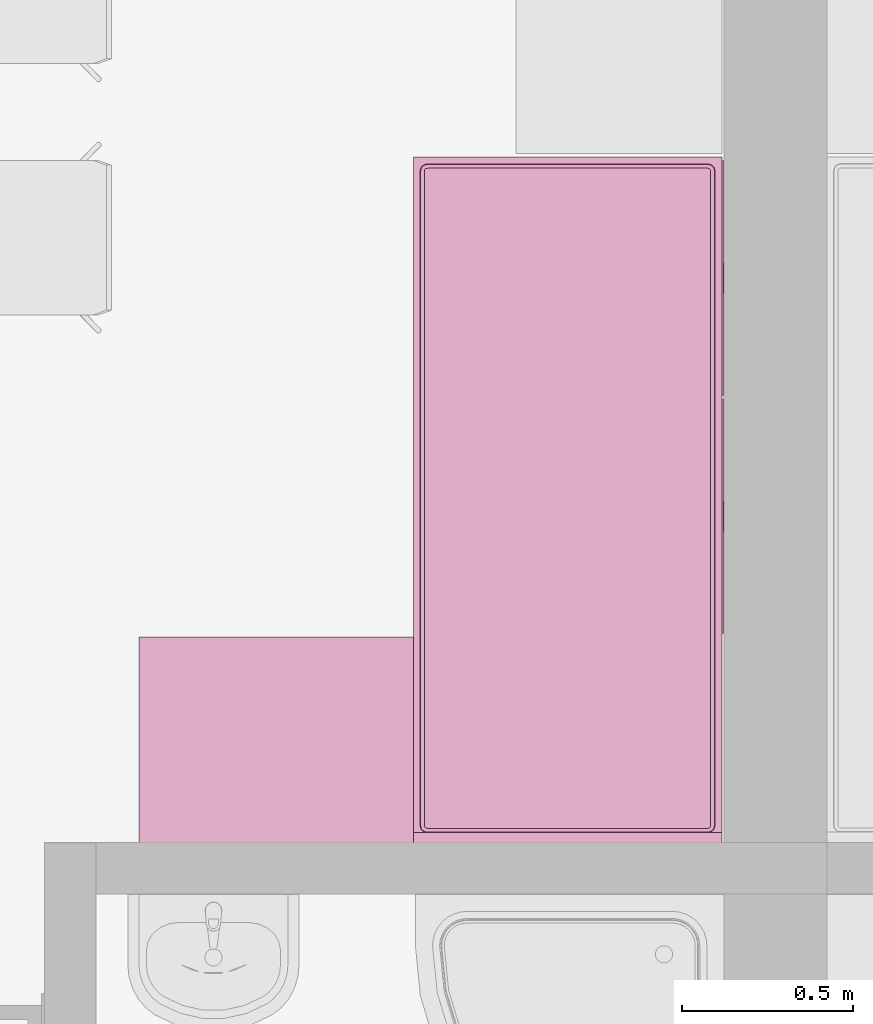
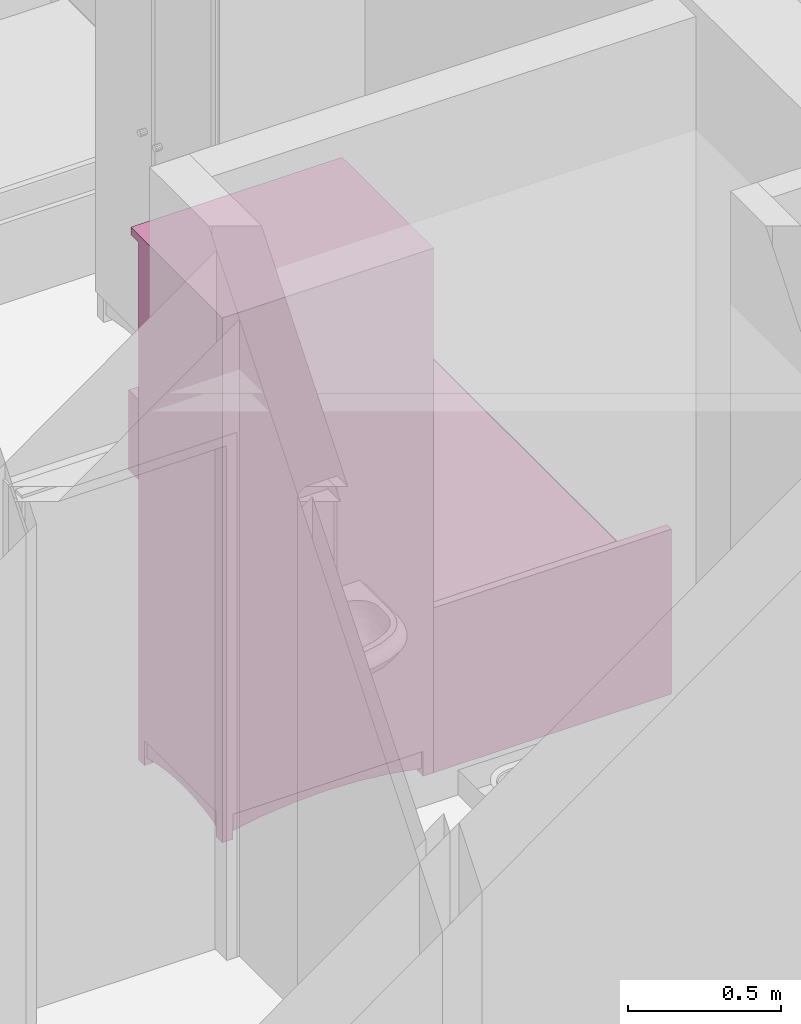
# One storey, part 89 of 165: 2 furnishings.
"""IFC2X3 building model written with IfcOpenShell, lengths in millimetres."""

import ifcopenshell
import ifcopenshell.guid

model = None  # the IFC model being written
_history = None  # IfcOwnerHistory: only IFC2X3 demands one
_inside = {}  # id of a spatial element -> (the spatial element, [elements in it])
_under = {}  # id of a project, library or spatial element -> (it, [spatial elements below it])
_declared = {}  # id of a project -> (the project, [libraries it declares])
_typed = {}  # id of a type object -> (the type object, [elements of that type])
_made_of = {}  # id of a material, layer set ... -> (it, [elements and type objects made of it])


def new_model(schema):
    """Start an empty IFC model of exactly this schema.

    Asked for "IFC4X3", IfcOpenShell would pick the latest addendum, in which some entities
    have other attributes; the version numbers below select the first issue.
    IFC2X3 requires an IfcOwnerHistory on every rooted entity: one is made here for all.
    """
    global model, _history
    if schema == "IFC4X3":
        model = ifcopenshell.file(schema_version=(4, 3, 0, 0))
    else:
        model = ifcopenshell.file(schema=schema)
    _inside.clear()
    _under.clear()
    _declared.clear()
    _typed.clear()
    _made_of.clear()
    _history = None
    if model.schema == "IFC2X3":
        org = make("IfcOrganization", Name="unknown")
        user = make(
            "IfcPersonAndOrganization",
            ThePerson=make("IfcPerson", FamilyName="unknown"),
            TheOrganization=org,
        )
        app = make(
            "IfcApplication",
            ApplicationDeveloper=org,
            Version="unknown",
            ApplicationFullName="unknown",
            ApplicationIdentifier="unknown",
        )
        _history = make(
            "IfcOwnerHistory",
            OwningUser=user,
            OwningApplication=app,
            ChangeAction="ADDED",
            CreationDate=0,
        )
    return model


def make(cls, **values):
    """One entity of the class cls with the attributes given. An attribute that is None is left unset."""
    return model.create_entity(
        cls, **{name: value for name, value in values.items() if value is not None}
    )


def entity(cls, *values):
    """Any entity or typed value of the class cls, its attributes in the order of the schema. None: left unset."""
    e = model.create_entity(cls)
    for i, value in enumerate(values):
        if value is not None:
            e[i] = value
    return e


def rooted(cls, **values):
    """An entity with a GlobalId (a new one), such as an element, a storey or a relation."""
    return make(cls, GlobalId=ifcopenshell.guid.new(), OwnerHistory=_history, **values)


def si_unit(unit_type, name, prefix=None):
    """IfcSIUnit, for example si_unit("LENGTHUNIT", "METRE", prefix="MILLI")."""
    return make("IfcSIUnit", UnitType=unit_type, Prefix=prefix, Name=name)


def converted_unit(unit_type, name, factor, base, dimensions=None, offset=None):
    """IfcConversionBasedUnit, such as the inch: factor (a typed value) times the base unit."""
    return make(
        "IfcConversionBasedUnit"
        if offset is None
        else "IfcConversionBasedUnitWithOffset",
        ConversionOffset=offset,
        Dimensions=None
        if dimensions is None
        else entity("IfcDimensionalExponents", *dimensions),
        UnitType=unit_type,
        Name=name,
        ConversionFactor=make(
            "IfcMeasureWithUnit", ValueComponent=factor, UnitComponent=base
        ),
    )


def money_unit(currency):
    """IfcMonetaryUnit."""
    return make("IfcMonetaryUnit", Currency=currency)


def assignment(units):
    """IfcUnitAssignment: the units of a project."""
    return None if units is None else make("IfcUnitAssignment", Units=units)


def point(xyz):
    """IfcCartesianPoint."""
    return None if xyz is None else make("IfcCartesianPoint", Coordinates=xyz)


def direction(xyz):
    """IfcDirection."""
    return None if xyz is None else make("IfcDirection", DirectionRatios=xyz)


def frame(location, z_axis=None, x_axis=None):
    """IfcAxis2Placement3D, a coordinate frame: its origin and axes. An axis left out is left unset."""
    return make(
        "IfcAxis2Placement3D",
        Location=point(location),
        Axis=direction(z_axis),
        RefDirection=direction(x_axis),
    )


def origin_with_axes():
    """The frame at (0, 0, 0) with the z axis (0, 0, 1) and the x axis (1, 0, 0) written out."""
    return frame((0.0, 0.0, 0.0), z_axis=(0.0, 0.0, 1.0), x_axis=(1.0, 0.0, 0.0))


def place(relative_to, where):
    """IfcLocalPlacement: puts the frame where relative to a parent placement (None: the world)."""
    return make(
        "IfcLocalPlacement", PlacementRelTo=relative_to, RelativePlacement=where
    )


def context(
    kind, dimensions, precision=None, world=None, true_north=None, identifier=None
):
    """IfcGeometricRepresentationContext, for example the 3D "Model" context."""
    return make(
        "IfcGeometricRepresentationContext",
        ContextIdentifier=identifier,
        ContextType=kind,
        CoordinateSpaceDimension=dimensions,
        Precision=precision,
        WorldCoordinateSystem=world,
        TrueNorth=true_north,
    )


def subcontext(parent, identifier, kind, view, scale=None):
    """IfcGeometricRepresentationSubContext, for example "Body" below "Model"."""
    return make(
        "IfcGeometricRepresentationSubContext",
        ContextIdentifier=identifier,
        ContextType=kind,
        ParentContext=parent,
        TargetScale=scale,
        TargetView=view,
    )


def project(units=None, contexts=None):
    """IfcProject with its units and contexts."""
    return rooted(
        "IfcProject",
        Name="project",
        RepresentationContexts=contexts,
        UnitsInContext=assignment(units),
    )


def spatial(cls, under=None, at=None, **own):
    """A site, building, storey or space (cls), placed at a placement, below another one or the project."""
    s = rooted(cls, ObjectPlacement=at, **own)
    if under is not None:
        _under.setdefault(under.id(), (under, []))[1].append(s)
    return s


def faces_of(points, faces, orient=None, outer=None):
    """IfcFace entities. A face is a list of loops; a loop is a list of indices into points, from 0.

    orient and outer hold one flag for each loop. By default every Orientation is true, the
    first loop of a face is its IfcFaceOuterBound and the others are IfcFaceBound.
    """
    made = []
    for i, loops in enumerate(faces):
        bounds = []
        for j, loop in enumerate(loops):
            is_outer = j == 0 if outer is None else outer[i][j]
            bounds.append(
                make(
                    "IfcFaceOuterBound" if is_outer else "IfcFaceBound",
                    Bound=make("IfcPolyLoop", Polygon=[points[k] for k in loop]),
                    Orientation=True if orient is None else orient[i][j],
                )
            )
        made.append(make("IfcFace", Bounds=bounds))
    return made


def faceted_brep(points, faces, orient=None, outer=None, voids=None):
    """IfcFacetedBrep: a solid bounded by flat faces; with voids (closed shells), ...WithVoids."""
    shared = [point(p) for p in points]
    hull = make("IfcClosedShell", CfsFaces=faces_of(shared, faces, orient, outer))
    if voids is None:
        return make("IfcFacetedBrep", Outer=hull)
    return make(
        "IfcFacetedBrepWithVoids",
        Outer=hull,
        Voids=[
            make(cls, CfsFaces=faces_of(shared, fs, o, b)) for cls, fs, o, b in voids
        ],
    )


def shape(context_of_items, identifier, shape_type, items):
    """IfcShapeRepresentation: the items that make up one representation, for example the "Body"."""
    return make(
        "IfcShapeRepresentation",
        ContextOfItems=context_of_items,
        RepresentationIdentifier=identifier,
        RepresentationType=shape_type,
        Items=items,
    )


def source(mapping_origin, context_of_items, identifier, shape_type, items):
    """IfcRepresentationMap: a shape defined once, which mapped items show again and again."""
    return make(
        "IfcRepresentationMap",
        MappingOrigin=mapping_origin,
        MappedRepresentation=shape(context_of_items, identifier, shape_type, items),
    )


def transform(
    local_origin,
    x_axis=None,
    y_axis=None,
    z_axis=None,
    scale=None,
    scale2=None,
    scale3=None,
    uniform=True,
):
    """IfcCartesianTransformationOperator3D, or its non-uniform kind. x_axis, y_axis, z_axis: its Axis1, 2, 3."""
    if uniform:
        return make(
            "IfcCartesianTransformationOperator3D",
            Axis1=direction(x_axis),
            Axis2=direction(y_axis),
            LocalOrigin=point(local_origin),
            Scale=scale,
            Axis3=direction(z_axis),
        )
    return make(
        "IfcCartesianTransformationOperator3DnonUniform",
        Axis1=direction(x_axis),
        Axis2=direction(y_axis),
        LocalOrigin=point(local_origin),
        Scale=scale,
        Axis3=direction(z_axis),
        Scale2=scale2,
        Scale3=scale3,
    )


def mapped(mapping_source, mapping_target):
    """IfcMappedItem: shows the shape of a source again, moved by a transform."""
    return make(
        "IfcMappedItem", MappingSource=mapping_source, MappingTarget=mapping_target
    )


def material(Name=None, Category=None):
    """IfcMaterial."""
    return make("IfcMaterial", Name=Name, Category=Category)


def material_list(materials):
    """IfcMaterialList."""
    return make("IfcMaterialList", Materials=materials)


def made_of(thing, what):
    """Note that an element or type object is made of a material, layer set ...; save() writes the relation."""
    if what is not None:
        _made_of.setdefault(what.id(), (what, []))[1].append(thing)
    return thing


def type_object(cls, material=None, **own):
    """A type object (cls), such as IfcWallType, which elements share."""
    return made_of(rooted(cls, **own), material)


def element(
    cls,
    number,
    at=None,
    inside=None,
    cuts=None,
    type_object=None,
    material=None,
    context=None,
    identifier="Body",
    shape_type=None,
    held_by="IfcProductDefinitionShape",
    body=None,
    shapes=None,
    **own,
):
    """One element of the class cls, such as IfcWall. Its Tag is "e" and its number.

    at: its placement. inside: the storey or other place that contains it. cuts: it is an
    opening in that element (IfcRelVoidsElement). A single representation is given by context,
    identifier, shape_type and body (its items); several are given by shapes. held_by: the class
    of the entity that holds the representations. save() writes the other relations.
    """
    e = rooted(cls, Tag="e%d" % number, ObjectPlacement=at, **own)
    if body is not None:
        shapes = [shape(context, identifier, shape_type, body)]
    if shapes is not None:
        e.Representation = make(held_by, Representations=shapes)
    if inside is not None:
        _inside.setdefault(inside.id(), (inside, []))[1].append(e)
    if cuts is not None:
        rooted(
            "IfcRelVoidsElement", RelatingBuildingElement=cuts, RelatedOpeningElement=e
        )
    if type_object is not None:
        _typed.setdefault(type_object.id(), (type_object, []))[1].append(e)
    return made_of(e, material)


def aggregate(whole, parts):
    """IfcRelAggregates: a whole, such as a stair, and the parts it consists of."""
    return rooted("IfcRelAggregates", RelatingObject=whole, RelatedObjects=parts)


def save(model, path):
    """Write the relations noted so far, then the file.

    IfcRelAggregates (storeys below a building ...), IfcRelContainedInSpatialStructure (elements
    in a storey), IfcRelDefinesByType, IfcRelAssociatesMaterial and IfcRelDeclares: one each for
    every whole, place, type object, material and project.
    """
    for whole, parts in _under.values():
        aggregate(whole, parts)
    for where, things in _inside.values():
        rooted(
            "IfcRelContainedInSpatialStructure",
            RelatedElements=things,
            RelatingStructure=where,
        )
    for kind, things in _typed.values():
        rooted("IfcRelDefinesByType", RelatedObjects=things, RelatingType=kind)
    for what, things in _made_of.values():
        rooted("IfcRelAssociatesMaterial", RelatedObjects=things, RelatingMaterial=what)
    for by, libraries in _declared.values():
        rooted("IfcRelDeclares", RelatingContext=by, RelatedDefinitions=libraries)
    model.write(path)


model = new_model("IFC2X3")

# Units and contexts
model_context = context("Model", 3, precision=1e-05, world=origin_with_axes(), true_north=direction((0.0, 1.0)))
body_context = subcontext(model_context, "Body", "Model", "MODEL_VIEW")
ifc_project = project(units=[si_unit("LENGTHUNIT", "METRE", prefix="MILLI"), si_unit("AREAUNIT", "SQUARE_METRE"), si_unit("VOLUMEUNIT", "CUBIC_METRE"), converted_unit("PLANEANGLEUNIT", "DEGREE", entity("IfcPlaneAngleMeasure", 0.0174532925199), si_unit("PLANEANGLEUNIT", "RADIAN"), dimensions=[0, 0, 0, 0, 0, 0, 0]), si_unit("SOLIDANGLEUNIT", "STERADIAN"), money_unit("USD"), converted_unit("TIMEUNIT", "Year", entity("IfcTimeMeasure", 31556926.0), si_unit("TIMEUNIT", "SECOND"), dimensions=[0, 0, 0, 0, 0, 0, 0]), si_unit("MASSUNIT", "GRAM"), si_unit("THERMODYNAMICTEMPERATUREUNIT", "DEGREE_CELSIUS"), si_unit("LUMINOUSINTENSITYUNIT", "LUMEN")], contexts=[model_context])

# Site, building, storey
site_placement = place(None, origin_with_axes())
site = spatial("IfcSite", under=ifc_project, at=site_placement, Name="Site", CompositionType="ELEMENT")
building_placement = place(site_placement, origin_with_axes())
building = spatial("IfcBuilding", under=site, at=building_placement, Name="Building", CompositionType="ELEMENT")
storey_placement = place(building_placement, frame((0.0, 0.0, 6300.0), z_axis=(0.0, 0.0, 1.0), x_axis=(1.0, 0.0, 0.0)))
storey = spatial("IfcBuildingStorey", under=building, at=storey_placement, Name="4KORRUS", CompositionType="ELEMENT", Elevation=6300.0)

# Furnishings
ifc_material = material(Name="Background")
ifc_material_list = material_list([ifc_material])
furnishing_element_type_1 = type_object("IfcFurnishingElementType", Name="Cupboard 19")
shared_shape_1 = source(origin_with_axes(), body_context, "Body", "Brep", [
    faceted_brep([(-780.0, 600.0, 120.0), (-780.0, 580.0, 120.0), (-780.0, 580.0, 2050.0), (-780.0, 600.0, 2050.0), (-20.0, 600.0, 120.0), (-20.0, 580.0, 120.0), (-20.0, 580.0, 2050.0), (-20.0, 600.0, 2050.0)], [[[0, 1, 2, 3]], [[0, 4, 5, 1]], [[1, 5, 6, 2]], [[3, 2, 6, 7]], [[4, 0, 3, 7]], [[5, 4, 7, 6]]]),
    faceted_brep([(0.0, 50.0, 100.0), (-20.0, 50.0, 100.0), (-20.0, 600.0, 100.0), (0.0, 600.0, 100.0), (0.0, 50.0, 2070.0), (-20.0, 50.0, 2070.0), (-20.0, 600.0, 2070.0), (0.0, 600.0, 2070.0)], [[[0, 1, 2, 3]], [[1, 0, 4, 5]], [[2, 1, 5, 6]], [[3, 2, 6, 7]], [[0, 3, 7, 4]], [[5, 4, 7, 6]]]),
    faceted_brep([(-780.0, 50.0, 100.0), (-800.0, 50.0, 100.0), (-800.0, 600.0, 100.0), (-780.0, 600.0, 100.0), (-780.0, 50.0, 2070.0), (-800.0, 50.0, 2070.0), (-800.0, 600.0, 2070.0), (-780.0, 600.0, 2070.0)], [[[0, 1, 2, 3]], [[1, 0, 4, 5]], [[2, 1, 5, 6]], [[3, 2, 6, 7]], [[0, 3, 7, 4]], [[5, 4, 7, 6]]]),
    faceted_brep([(-20.0, 50.0, 100.0), (-780.0, 50.0, 100.0), (-780.0, 600.0, 100.0), (-20.0, 600.0, 100.0), (-20.0, 50.0, 120.0), (-780.0, 50.0, 120.0), (-780.0, 600.0, 120.0), (-20.0, 600.0, 120.0)], [[[0, 1, 2, 3]], [[1, 0, 4, 5]], [[2, 1, 5, 6]], [[3, 2, 6, 7]], [[0, 3, 7, 4]], [[5, 4, 7, 6]]]),
    faceted_brep([(-20.0, 50.0, 2050.0), (-780.0, 50.0, 2050.0), (-780.0, 600.0, 2050.0), (-20.0, 600.0, 2050.0), (-20.0, 50.0, 2070.0), (-780.0, 50.0, 2070.0), (-780.0, 600.0, 2070.0), (-20.0, 600.0, 2070.0)], [[[0, 1, 2, 3]], [[1, 0, 4, 5]], [[2, 1, 5, 6]], [[3, 2, 6, 7]], [[0, 3, 7, 4]], [[5, 4, 7, 6]]]),
    faceted_brep([(0.0, 600.0, 2070.0), (0.0, 600.0, 2100.0), (0.0, 0.0, 2100.0), (0.0, 0.0, 2070.0), (-800.0, 600.0, 2070.0), (-800.0, 600.0, 2100.0), (-800.0, 0.0, 2100.0), (-800.0, 0.0, 2070.0)], [[[0, 1, 2, 3]], [[4, 5, 1, 0]], [[1, 5, 6, 2]], [[3, 2, 6, 7]], [[0, 3, 7, 4]], [[7, 6, 5, 4]]]),
    faceted_brep([(-760.0, 590.0, 25.0), (-640.962, 590.0, 45.8), (-640.962, 570.0, 45.8), (-760.0, 570.0, 25.0), (-760.0, 590.0, 100.0), (-40.0, 590.0, 100.0), (-40.0, 590.0, 25.0), (-159.038, 590.0, 45.8), (-279.23, 590.0, 58.32), (-400.0, 590.0, 62.5), (-520.77, 590.0, 58.32), (-520.77, 570.0, 58.32), (-400.0, 570.0, 62.5), (-279.23, 570.0, 58.32), (-159.038, 570.0, 45.8), (-40.0, 570.0, 25.0), (-40.0, 570.0, 100.0), (-760.0, 570.0, 100.0)], [[[0, 1, 2, 3]], [[0, 4, 5, 6, 7, 8, 9, 10, 1]], [[1, 10, 11, 2]], [[3, 2, 11, 12, 13, 14, 15, 16, 17]], [[4, 0, 3, 17]], [[5, 4, 17, 16]], [[6, 5, 16, 15]], [[7, 6, 15, 14]], [[8, 7, 14, 13]], [[9, 8, 13, 12]], [[10, 9, 12, 11]]]),
    faceted_brep([(-760.0, 80.0, 25.0), (-640.962, 80.0, 45.8), (-640.962, 60.0, 45.8), (-760.0, 60.0, 25.0), (-760.0, 80.0, 100.0), (-40.0, 80.0, 100.0), (-40.0, 80.0, 25.0), (-159.038, 80.0, 45.8), (-279.23, 80.0, 58.32), (-400.0, 80.0, 62.5), (-520.77, 80.0, 58.32), (-520.77, 60.0, 58.32), (-400.0, 60.0, 62.5), (-279.23, 60.0, 58.32), (-159.038, 60.0, 45.8), (-40.0, 60.0, 25.0), (-40.0, 60.0, 100.0), (-760.0, 60.0, 100.0)], [[[0, 1, 2, 3]], [[0, 4, 5, 6, 7, 8, 9, 10, 1]], [[1, 10, 11, 2]], [[3, 2, 11, 12, 13, 14, 15, 16, 17]], [[4, 0, 3, 17]], [[5, 4, 17, 16]], [[6, 5, 16, 15]], [[7, 6, 15, 14]], [[8, 7, 14, 13]], [[9, 8, 13, 12]], [[10, 9, 12, 11]]]),
    faceted_brep([(-790.0, 90.0, 25.0), (-790.0, 141.266, 38.072), (-770.0, 141.266, 38.072), (-770.0, 90.0, 25.0), (-790.0, 90.0, 100.0), (-790.0, 560.0, 100.0), (-790.0, 560.0, 25.0), (-790.0, 508.734, 38.072), (-790.0, 456.752, 47.92), (-790.0, 404.257, 54.508), (-790.0, 351.453, 57.808), (-790.0, 298.547, 57.808), (-790.0, 245.743, 54.508), (-790.0, 193.248, 47.92), (-770.0, 193.248, 47.92), (-770.0, 245.743, 54.508), (-770.0, 298.547, 57.808), (-770.0, 351.453, 57.808), (-770.0, 404.257, 54.508), (-770.0, 456.752, 47.92), (-770.0, 508.734, 38.072), (-770.0, 560.0, 25.0), (-770.0, 560.0, 100.0), (-770.0, 90.0, 100.0)], [[[0, 1, 2, 3]], [[0, 4, 5, 6, 7, 8, 9, 10, 11, 12, 13, 1]], [[1, 13, 14, 2]], [[3, 2, 14, 15, 16, 17, 18, 19, 20, 21, 22, 23]], [[4, 0, 3, 23]], [[5, 4, 23, 22]], [[6, 5, 22, 21]], [[7, 6, 21, 20]], [[8, 7, 20, 19]], [[9, 8, 19, 18]], [[10, 9, 18, 17]], [[11, 10, 17, 16]], [[12, 11, 16, 15]], [[13, 12, 15, 14]]]),
    faceted_brep([(-30.0, 90.0, 25.0), (-30.0, 141.266, 38.072), (-10.0, 141.266, 38.072), (-10.0, 90.0, 25.0), (-30.0, 90.0, 100.0), (-30.0, 560.0, 100.0), (-30.0, 560.0, 25.0), (-30.0, 508.734, 38.072), (-30.0, 456.752, 47.92), (-30.0, 404.257, 54.508), (-30.0, 351.453, 57.808), (-30.0, 298.547, 57.808), (-30.0, 245.743, 54.508), (-30.0, 193.248, 47.92), (-10.0, 193.248, 47.92), (-10.0, 245.743, 54.508), (-10.0, 298.547, 57.808), (-10.0, 351.453, 57.808), (-10.0, 404.257, 54.508), (-10.0, 456.752, 47.92), (-10.0, 508.734, 38.072), (-10.0, 560.0, 25.0), (-10.0, 560.0, 100.0), (-10.0, 90.0, 100.0)], [[[0, 1, 2, 3]], [[0, 4, 5, 6, 7, 8, 9, 10, 11, 12, 13, 1]], [[1, 13, 14, 2]], [[3, 2, 14, 15, 16, 17, 18, 19, 20, 21, 22, 23]], [[4, 0, 3, 23]], [[5, 4, 23, 22]], [[6, 5, 22, 21]], [[7, 6, 21, 20]], [[8, 7, 20, 19]], [[9, 8, 19, 18]], [[10, 9, 18, 17]], [[11, 10, 17, 16]], [[12, 11, 16, 15]], [[13, 12, 15, 14]]]),
    faceted_brep([(-760.0, 560.0, 0.0), (-760.0, 600.0, 0.0), (-760.0, 600.0, 100.0), (-760.0, 560.0, 100.0), (-800.0, 560.0, 0.0), (-800.0, 600.0, 0.0), (-800.0, 600.0, 100.0), (-800.0, 560.0, 100.0)], [[[0, 1, 2, 3]], [[0, 4, 5, 1]], [[1, 5, 6, 2]], [[3, 2, 6, 7]], [[4, 0, 3, 7]], [[5, 4, 7, 6]]]),
    faceted_brep([(0.0, 560.0, 0.0), (0.0, 600.0, 0.0), (0.0, 600.0, 100.0), (0.0, 560.0, 100.0), (-40.0, 560.0, 0.0), (-40.0, 600.0, 0.0), (-40.0, 600.0, 100.0), (-40.0, 560.0, 100.0)], [[[0, 1, 2, 3]], [[0, 4, 5, 1]], [[1, 5, 6, 2]], [[3, 2, 6, 7]], [[4, 0, 3, 7]], [[5, 4, 7, 6]]]),
    faceted_brep([(-760.0, 50.0, 0.0), (-760.0, 90.0, 0.0), (-760.0, 90.0, 100.0), (-760.0, 50.0, 100.0), (-800.0, 50.0, 0.0), (-800.0, 90.0, 0.0), (-800.0, 90.0, 100.0), (-800.0, 50.0, 100.0)], [[[0, 1, 2, 3]], [[0, 4, 5, 1]], [[1, 5, 6, 2]], [[3, 2, 6, 7]], [[4, 0, 3, 7]], [[5, 4, 7, 6]]]),
    faceted_brep([(0.0, 50.0, 0.0), (0.0, 90.0, 0.0), (0.0, 90.0, 100.0), (0.0, 50.0, 100.0), (-40.0, 50.0, 0.0), (-40.0, 90.0, 0.0), (-40.0, 90.0, 100.0), (-40.0, 50.0, 100.0)], [[[0, 1, 2, 3]], [[0, 4, 5, 1]], [[1, 5, 6, 2]], [[3, 2, 6, 7]], [[4, 0, 3, 7]], [[5, 4, 7, 6]]]),
    faceted_brep([(-780.0, 580.0, 587.5), (-780.0, 50.0, 587.5), (-780.0, 50.0, 607.5), (-780.0, 580.0, 607.5), (-20.0, 580.0, 587.5), (-20.0, 50.0, 587.5), (-20.0, 50.0, 607.5), (-20.0, 580.0, 607.5)], [[[0, 1, 2, 3]], [[0, 4, 5, 1]], [[1, 5, 6, 2]], [[3, 2, 6, 7]], [[4, 0, 3, 7]], [[5, 4, 7, 6]]]),
    faceted_brep([(-780.0, 580.0, 1075.0), (-780.0, 50.0, 1075.0), (-780.0, 50.0, 1095.0), (-780.0, 580.0, 1095.0), (-20.0, 580.0, 1075.0), (-20.0, 50.0, 1075.0), (-20.0, 50.0, 1095.0), (-20.0, 580.0, 1095.0)], [[[0, 1, 2, 3]], [[0, 4, 5, 1]], [[1, 5, 6, 2]], [[3, 2, 6, 7]], [[4, 0, 3, 7]], [[5, 4, 7, 6]]]),
    faceted_brep([(-780.0, 580.0, 1562.5), (-780.0, 50.0, 1562.5), (-780.0, 50.0, 1582.5), (-780.0, 580.0, 1582.5), (-20.0, 580.0, 1562.5), (-20.0, 50.0, 1562.5), (-20.0, 50.0, 1582.5), (-20.0, 580.0, 1582.5)], [[[0, 1, 2, 3]], [[0, 4, 5, 1]], [[1, 5, 6, 2]], [[3, 2, 6, 7]], [[4, 0, 3, 7]], [[5, 4, 7, 6]]]),
    faceted_brep([(-789.5, 50.0, 110.5), (-789.5, 50.0, 2059.5), (-400.5, 50.0, 2059.5), (-400.5, 50.0, 110.5), (-789.5, 40.0, 110.5), (-789.5, 40.0, 2059.5), (-400.5, 40.0, 2059.5), (-400.5, 40.0, 110.5), (-779.5, 30.0, 120.5), (-779.5, 30.0, 2049.5), (-410.5, 30.0, 2049.5), (-410.5, 30.0, 120.5)], [[[0, 1, 2, 3]], [[1, 0, 4, 5]], [[2, 1, 5, 6]], [[3, 2, 6, 7]], [[0, 3, 7, 4]], [[5, 4, 8, 9]], [[6, 5, 9, 10]], [[7, 6, 10, 11]], [[4, 7, 11, 8]], [[10, 9, 8, 11]]]),
    faceted_brep([(-399.5, 50.0, 110.5), (-399.5, 50.0, 2059.5), (-10.5, 50.0, 2059.5), (-10.5, 50.0, 110.5), (-399.5, 40.0, 110.5), (-399.5, 40.0, 2059.5), (-10.5, 40.0, 2059.5), (-10.5, 40.0, 110.5), (-389.5, 30.0, 120.5), (-389.5, 30.0, 2049.5), (-20.5, 30.0, 2049.5), (-20.5, 30.0, 120.5)], [[[0, 1, 2, 3]], [[1, 0, 4, 5]], [[2, 1, 5, 6]], [[3, 2, 6, 7]], [[0, 3, 7, 4]], [[5, 4, 8, 9]], [[6, 5, 9, 10]], [[7, 6, 10, 11]], [[4, 7, 11, 8]], [[10, 9, 8, 11]]]),
    faceted_brep([(-339.608, 30.0, 954.0), (-344.0, 30.0, 949.608), (-350.0, 30.0, 948.0), (-356.0, 30.0, 949.608), (-360.392, 30.0, 954.0), (-362.0, 30.0, 960.0), (-360.392, 30.0, 966.0), (-356.0, 30.0, 970.392), (-350.0, 30.0, 972.0), (-344.0, 30.0, 970.392), (-339.608, 30.0, 966.0), (-338.0, 30.0, 960.0), (-339.608, 5.0, 954.0), (-344.0, 5.0, 949.608), (-350.0, 5.0, 948.0), (-356.0, 5.0, 949.608), (-360.392, 5.0, 954.0), (-362.0, 5.0, 960.0), (-360.392, 5.0, 966.0), (-356.0, 5.0, 970.392), (-350.0, 5.0, 972.0), (-344.0, 5.0, 970.392), (-339.608, 5.0, 966.0), (-338.0, 5.0, 960.0)], [[[0, 1, 2, 3, 4, 5, 6, 7, 8, 9, 10, 11]], [[1, 0, 12, 13]], [[2, 1, 13, 14]], [[3, 2, 14, 15]], [[4, 3, 15, 16]], [[5, 4, 16, 17]], [[6, 5, 17, 18]], [[7, 6, 18, 19]], [[8, 7, 19, 20]], [[9, 8, 20, 21]], [[10, 9, 21, 22]], [[11, 10, 22, 23]], [[0, 11, 23, 12]], [[12, 23, 22, 21, 20, 19, 18, 17, 16, 15, 14, 13]]]),
    faceted_brep([(-460.392, 30.0, 954.0), (-462.0, 30.0, 960.0), (-460.392, 30.0, 966.0), (-456.0, 30.0, 970.392), (-450.0, 30.0, 972.0), (-444.0, 30.0, 970.392), (-439.608, 30.0, 966.0), (-438.0, 30.0, 960.0), (-439.608, 30.0, 954.0), (-444.0, 30.0, 949.608), (-450.0, 30.0, 948.0), (-456.0, 30.0, 949.608), (-460.392, 5.0, 954.0), (-462.0, 5.0, 960.0), (-460.392, 5.0, 966.0), (-456.0, 5.0, 970.392), (-450.0, 5.0, 972.0), (-444.0, 5.0, 970.392), (-439.608, 5.0, 966.0), (-438.0, 5.0, 960.0), (-439.608, 5.0, 954.0), (-444.0, 5.0, 949.608), (-450.0, 5.0, 948.0), (-456.0, 5.0, 949.608)], [[[0, 1, 2, 3, 4, 5, 6, 7, 8, 9, 10, 11]], [[0, 12, 13, 1]], [[1, 13, 14, 2]], [[2, 14, 15, 3]], [[3, 15, 16, 4]], [[4, 16, 17, 5]], [[5, 17, 18, 6]], [[6, 18, 19, 7]], [[7, 19, 20, 8]], [[8, 20, 21, 9]], [[9, 21, 22, 10]], [[10, 22, 23, 11]], [[11, 23, 12, 0]], [[12, 23, 22, 21, 20, 19, 18, 17, 16, 15, 14, 13]]]),
])
furnishing_1_placement = place(storey_placement, frame((-37996.5850987, -8617.37850445, 0.0), z_axis=(0.0, 0.0, 1.0), x_axis=(-1.0, 0.0, 0.0)))
element("IfcFurnishingElement", 1, at=furnishing_1_placement, inside=storey, type_object=furnishing_element_type_1, material=ifc_material_list, Name="FU - 014", context=body_context, shape_type="MappedRepresentation", body=[
    mapped(shared_shape_1, transform((0.0, 0.0, 0.0))),
])
furnishing_element_type_2 = type_object("IfcFurnishingElementType", Name="Bed 19")
shared_shape_2 = source(origin_with_axes(), body_context, "Body", "Brep", [
    faceted_brep([(-900.0, 1970.0, 0.0), (-900.0, 2000.0, 0.0), (0.0, 2000.0, 0.0), (0.0, 1970.0, 0.0), (-900.0, 1970.0, 660.0), (-900.0, 2000.0, 660.0), (0.0, 2000.0, 660.0), (0.0, 1970.0, 660.0)], [[[0, 1, 2, 3]], [[0, 4, 5, 1]], [[1, 5, 6, 2]], [[2, 6, 7, 3]], [[3, 7, 4, 0]], [[7, 6, 5, 4]]]),
    faceted_brep([(-900.0, 0.0, 0.0), (-900.0, 1970.0, 0.0), (0.0, 1970.0, 0.0), (0.0, 0.0, 0.0), (-900.0, 0.0, 320.0), (-900.0, 1970.0, 320.0), (0.0, 1970.0, 320.0), (0.0, 0.0, 320.0)], [[[0, 1, 2, 3]], [[0, 4, 5, 1]], [[1, 5, 6, 2]], [[2, 6, 7, 3]], [[3, 7, 4, 0]], [[7, 6, 5, 4]]]),
    faceted_brep([(-905.0, 10.0, 30.0), (-905.0, 695.0, 30.0), (-900.0, 695.0, 30.0), (-900.0, 10.0, 30.0), (-905.0, 10.0, 290.0), (-905.0, 695.0, 290.0), (-900.0, 695.0, 290.0), (-900.0, 10.0, 290.0)], [[[0, 1, 2, 3]], [[0, 4, 5, 1]], [[1, 5, 6, 2]], [[2, 6, 7, 3]], [[3, 7, 4, 0]], [[7, 6, 5, 4]]]),
    faceted_brep([(-935.0, 307.5, 150.0), (-935.0, 397.5, 150.0), (-905.0, 397.5, 150.0), (-905.0, 307.5, 150.0), (-935.0, 307.5, 170.0), (-935.0, 397.5, 170.0), (-905.0, 397.5, 170.0), (-905.0, 307.5, 170.0)], [[[0, 1, 2, 3]], [[0, 4, 5, 1]], [[1, 5, 6, 2]], [[2, 6, 7, 3]], [[3, 7, 4, 0]], [[7, 6, 5, 4]]]),
    faceted_brep([(-905.0, 705.0, 30.0), (-905.0, 1390.0, 30.0), (-900.0, 1390.0, 30.0), (-900.0, 705.0, 30.0), (-905.0, 705.0, 290.0), (-905.0, 1390.0, 290.0), (-900.0, 1390.0, 290.0), (-900.0, 705.0, 290.0)], [[[0, 1, 2, 3]], [[0, 4, 5, 1]], [[1, 5, 6, 2]], [[2, 6, 7, 3]], [[3, 7, 4, 0]], [[7, 6, 5, 4]]]),
    faceted_brep([(-935.0, 1002.5, 150.0), (-935.0, 1092.5, 150.0), (-905.0, 1092.5, 150.0), (-905.0, 1002.5, 150.0), (-935.0, 1002.5, 170.0), (-935.0, 1092.5, 170.0), (-905.0, 1092.5, 170.0), (-905.0, 1002.5, 170.0)], [[[0, 1, 2, 3]], [[0, 4, 5, 1]], [[1, 5, 6, 2]], [[2, 6, 7, 3]], [[3, 7, 4, 0]], [[7, 6, 5, 4]]]),
    faceted_brep([(-20.0, 40.0, 350.0), (-21.522, 32.346, 350.0), (-25.858, 25.858, 350.0), (-32.346, 21.522, 350.0), (-40.0, 20.0, 350.0), (-860.0, 20.0, 350.0), (-867.654, 21.522, 350.0), (-874.142, 25.858, 350.0), (-878.478, 32.346, 350.0), (-880.0, 40.0, 350.0), (-880.0, 1950.0, 350.0), (-878.478, 1957.654, 350.0), (-874.142, 1964.142, 350.0), (-867.654, 1968.478, 350.0), (-860.0, 1970.0, 350.0), (-40.0, 1970.0, 350.0), (-32.346, 1968.478, 350.0), (-25.858, 1964.142, 350.0), (-21.522, 1957.654, 350.0), (-20.0, 1950.0, 350.0), (-20.0, 40.0, 420.0), (-21.522, 32.346, 420.0), (-25.858, 25.858, 420.0), (-32.346, 21.522, 420.0), (-40.0, 20.0, 420.0), (-860.0, 20.0, 420.0), (-867.654, 21.522, 420.0), (-874.142, 25.858, 420.0), (-878.478, 32.346, 420.0), (-880.0, 40.0, 420.0), (-880.0, 1950.0, 420.0), (-878.478, 1957.654, 420.0), (-874.142, 1964.142, 420.0), (-867.654, 1968.478, 420.0), (-860.0, 1970.0, 420.0), (-40.0, 1970.0, 420.0), (-32.346, 1968.478, 420.0), (-25.858, 1964.142, 420.0), (-21.522, 1957.654, 420.0), (-20.0, 1950.0, 420.0), (-21.522, 40.15, 427.654), (-22.956, 32.94, 427.654), (-26.955, 26.955, 427.654), (-32.94, 22.956, 427.654), (-40.15, 21.522, 427.654), (-859.85, 21.522, 427.654), (-867.06, 22.956, 427.654), (-873.045, 26.955, 427.654), (-877.044, 32.94, 427.654), (-878.478, 40.15, 427.654), (-878.478, 1949.85, 427.654), (-877.044, 1957.06, 427.654), (-873.045, 1963.045, 427.654), (-867.06, 1967.044, 427.654), (-859.85, 1968.478, 427.654), (-40.15, 1968.478, 427.654), (-32.94, 1967.044, 427.654), (-26.955, 1963.045, 427.654), (-22.956, 1957.06, 427.654), (-21.522, 1949.85, 427.654), (-32.346, 41.216, 438.478), (-33.152, 37.164, 438.478), (-34.759, 34.759, 438.478), (-37.164, 33.152, 438.478), (-41.216, 32.346, 438.478), (-858.784, 32.346, 438.478), (-862.836, 33.152, 438.478), (-865.241, 34.759, 438.478), (-866.848, 37.164, 438.478), (-867.654, 41.216, 438.478), (-867.654, 1948.784, 438.478), (-866.848, 1952.836, 438.478), (-865.241, 1955.241, 438.478), (-862.836, 1956.848, 438.478), (-858.784, 1957.654, 438.478), (-41.216, 1957.654, 438.478), (-37.164, 1956.848, 438.478), (-34.759, 1955.241, 438.478), (-33.152, 1952.836, 438.478), (-32.346, 1948.784, 438.478), (-40.0, 41.97, 440.0), (-40.327, 40.327, 440.0), (-40.0, 40.0, 439.924), (-41.97, 40.0, 440.0), (-858.03, 40.0, 440.0), (-859.673, 40.327, 440.0), (-860.0, 40.0, 439.924), (-860.0, 41.97, 440.0), (-860.0, 1948.03, 440.0), (-859.673, 1949.673, 440.0), (-860.0, 1950.0, 439.924), (-858.03, 1950.0, 440.0), (-41.97, 1950.0, 440.0), (-40.327, 1949.673, 440.0), (-40.0, 1950.0, 439.924), (-40.0, 1948.03, 440.0)], [[[0, 1, 2, 3, 4, 5, 6, 7, 8, 9, 10, 11, 12, 13, 14, 15, 16, 17, 18, 19]], [[0, 20, 21, 1]], [[1, 21, 22, 2]], [[2, 22, 23, 3]], [[3, 23, 24, 4]], [[4, 24, 25, 5]], [[5, 25, 26, 6]], [[6, 26, 27, 7]], [[7, 27, 28, 8]], [[8, 28, 29, 9]], [[9, 29, 30, 10]], [[10, 30, 31, 11]], [[11, 31, 32, 12]], [[12, 32, 33, 13]], [[13, 33, 34, 14]], [[14, 34, 35, 15]], [[15, 35, 36, 16]], [[16, 36, 37, 17]], [[17, 37, 38, 18]], [[18, 38, 39, 19]], [[19, 39, 20, 0]], [[20, 40, 41, 21]], [[21, 41, 42, 22]], [[22, 42, 43, 23]], [[23, 43, 44, 24]], [[24, 44, 45, 25]], [[25, 45, 46, 26]], [[26, 46, 47, 27]], [[27, 47, 48, 28]], [[28, 48, 49, 29]], [[29, 49, 50, 30]], [[30, 50, 51, 31]], [[31, 51, 52, 32]], [[32, 52, 53, 33]], [[33, 53, 54, 34]], [[34, 54, 55, 35]], [[35, 55, 56, 36]], [[36, 56, 57, 37]], [[37, 57, 58, 38]], [[38, 58, 59, 39]], [[39, 59, 40, 20]], [[40, 60, 61, 41]], [[41, 61, 62, 42]], [[42, 62, 63, 43]], [[43, 63, 64, 44]], [[44, 64, 65, 45]], [[45, 65, 66, 46]], [[46, 66, 67, 47]], [[47, 67, 68, 48]], [[48, 68, 69, 49]], [[49, 69, 70, 50]], [[50, 70, 71, 51]], [[51, 71, 72, 52]], [[52, 72, 73, 53]], [[53, 73, 74, 54]], [[54, 74, 75, 55]], [[55, 75, 76, 56]], [[56, 76, 77, 57]], [[57, 77, 78, 58]], [[58, 78, 79, 59]], [[59, 79, 60, 40]], [[60, 80, 81, 82, 61]], [[61, 82, 62]], [[62, 82, 63]], [[63, 82, 81, 83, 64]], [[64, 83, 84, 65]], [[65, 84, 85, 86, 66]], [[66, 86, 67]], [[67, 86, 68]], [[68, 86, 85, 87, 69]], [[69, 87, 88, 70]], [[70, 88, 89, 90, 71]], [[71, 90, 72]], [[72, 90, 73]], [[73, 90, 89, 91, 74]], [[74, 91, 92, 75]], [[75, 92, 93, 94, 76]], [[76, 94, 77]], [[77, 94, 78]], [[78, 94, 93, 95, 79]], [[79, 95, 80, 60]], [[95, 93, 92, 91, 89, 88, 87, 85, 84, 83, 81, 80]]]),
    faceted_brep([(-20.0, 40.0, 350.0), (-20.0, 1950.0, 350.0), (-21.522, 1957.654, 350.0), (-25.858, 1964.142, 350.0), (-32.346, 1968.478, 350.0), (-40.0, 1970.0, 350.0), (-860.0, 1970.0, 350.0), (-867.654, 1968.478, 350.0), (-874.142, 1964.142, 350.0), (-878.478, 1957.654, 350.0), (-880.0, 1950.0, 350.0), (-880.0, 40.0, 350.0), (-878.478, 32.346, 350.0), (-874.142, 25.858, 350.0), (-867.654, 21.522, 350.0), (-860.0, 20.0, 350.0), (-40.0, 20.0, 350.0), (-32.346, 21.522, 350.0), (-25.858, 25.858, 350.0), (-21.522, 32.346, 350.0), (-20.0, 40.0, 320.0), (-20.0, 1950.0, 320.0), (-21.522, 1957.654, 320.0), (-25.858, 1964.142, 320.0), (-32.346, 1968.478, 320.0), (-40.0, 1970.0, 320.0), (-860.0, 1970.0, 320.0), (-867.654, 1968.478, 320.0), (-874.142, 1964.142, 320.0), (-878.478, 1957.654, 320.0), (-880.0, 1950.0, 320.0), (-880.0, 40.0, 320.0), (-878.478, 32.346, 320.0), (-874.142, 25.858, 320.0), (-867.654, 21.522, 320.0), (-860.0, 20.0, 320.0), (-40.0, 20.0, 320.0), (-32.346, 21.522, 320.0), (-25.858, 25.858, 320.0), (-21.522, 32.346, 320.0)], [[[0, 1, 2, 3, 4, 5, 6, 7, 8, 9, 10, 11, 12, 13, 14, 15, 16, 17, 18, 19]], [[1, 0, 20, 21]], [[2, 1, 21, 22]], [[3, 2, 22, 23]], [[4, 3, 23, 24]], [[5, 4, 24, 25]], [[6, 5, 25, 26]], [[7, 6, 26, 27]], [[8, 7, 27, 28]], [[9, 8, 28, 29]], [[10, 9, 29, 30]], [[11, 10, 30, 31]], [[12, 11, 31, 32]], [[13, 12, 32, 33]], [[14, 13, 33, 34]], [[15, 14, 34, 35]], [[16, 15, 35, 36]], [[17, 16, 36, 37]], [[18, 17, 37, 38]], [[19, 18, 38, 39]], [[0, 19, 39, 20]], [[20, 39, 38, 37, 36, 35, 34, 33, 32, 31, 30, 29, 28, 27, 26, 25, 24, 23, 22, 21]]]),
])
furnishing_2_placement = place(storey_placement, frame((-37196.5850987, -7217.37850445, 0.0), z_axis=(0.0, 0.0, 1.0), x_axis=(-1.0, 0.0, 0.0)))
element("IfcFurnishingElement", 2, at=furnishing_2_placement, inside=storey, type_object=furnishing_element_type_2, material=ifc_material_list, Name="FU - 013", context=body_context, shape_type="MappedRepresentation", body=[
    mapped(shared_shape_2, transform((0.0, 0.0, 0.0))),
])

save(model, "model.ifc")
